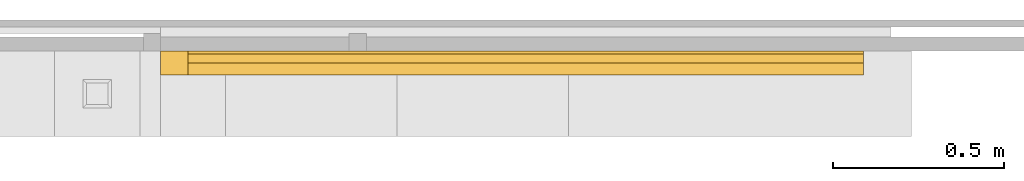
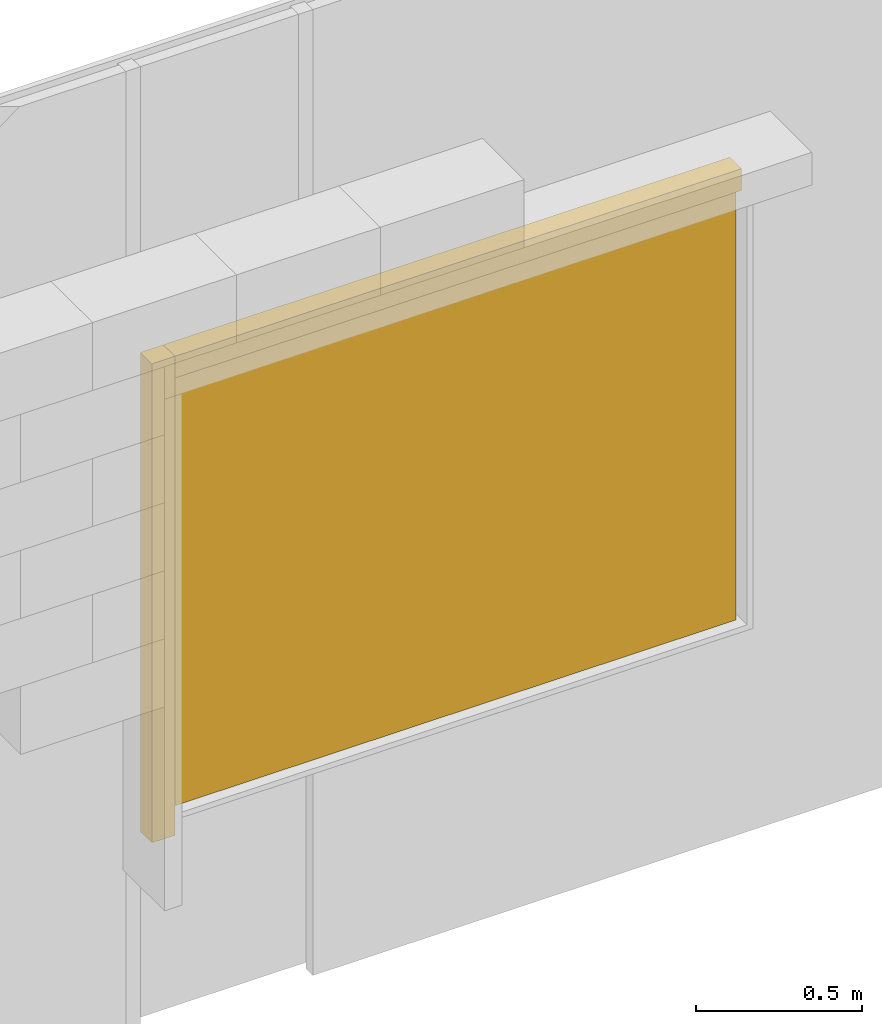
# One storey, part 2 of 2: 3 windows.
"""IFC4 building model written with IfcOpenShell, lengths in centimetres."""

from ifc_helpers import new_model, entity, si_unit, converted_unit, direction, frame, origin, place, context, subcontext, project, spatial, indexed_curve, outline, extrude, source, transform, mapped, material, type_object, type_shapes, element, save


model = new_model("IFC4")

# Units and contexts
model_context = context("Model", 3, precision=0.001, world=origin(), true_north=direction((0.0, 1.0)))
body_context = subcontext(model_context, "Body", "Model", "MODEL_VIEW")
ifc_project = project(units=[si_unit("LENGTHUNIT", "METRE", prefix="CENTI"), si_unit("AREAUNIT", "SQUARE_METRE"), si_unit("VOLUMEUNIT", "CUBIC_METRE"), converted_unit("PLANEANGLEUNIT", "DEGREE", entity("IfcPlaneAngleMeasure", 0.017453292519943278), si_unit("PLANEANGLEUNIT", "RADIAN"), dimensions=[0, 0, 0, 0, 0, 0, 0])], contexts=[model_context])

# Site, building, storey
site_placement = place(None, origin())
site = spatial("IfcSite", under=ifc_project, at=site_placement, Name="Default", CompositionType="ELEMENT")
building_placement = place(site_placement, origin())
building = spatial("IfcBuilding", under=site, at=building_placement, CompositionType="ELEMENT")
storey_placement = place(building_placement, frame((0.0, 0.0, -23.700000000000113)))
storey = spatial("IfcBuildingStorey", under=building, at=storey_placement, Name="L00__ABOVE Slab", CompositionType="ELEMENT", Elevation=-23.700000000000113)

# Windows
ifc_material_1 = material(Name="_WINDOW__Glazing", Category="Unassigned")
window_type_1 = type_object("IfcWindowType", Name="Windows : wdw_s__PANEL__Fixed__wp : Glazed", PartitioningType="NOTDEFINED", PredefinedType="WINDOW", material=ifc_material_1)
shared_shape_1 = source(origin(), body_context, "Body", "SweptSolid", [
    extrude(outline(indexed_curve([(-98.5, -1.3000000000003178), (98.5, -1.299999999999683), (98.5, 1.3000000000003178), (-98.5, 1.299999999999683), (-98.5, -1.3000000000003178)], self_intersect=False)), frame((98.5, 2.200000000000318, 0.0)), (0.0, 0.0, 1.0), 160.00000000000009),
])
type_shapes(window_type_1, [shared_shape_1])
window_1_placement = place(storey_placement, frame((3449.0256942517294, 2588.6164159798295, 70.0), z_axis=(0.0, 0.0, 1.0), x_axis=(-1.0, 0.0, 0.0)))
element("IfcWindow", 1, at=window_1_placement, inside=storey, type_object=window_type_1, material=ifc_material_1, Name="Windows : wdw_s__PANEL__Fixed__wp : Glazed", OverallHeight=7.0000000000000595, OverallWidth=197.0, PartitioningType="NOTDEFINED", PredefinedType="WINDOW", context=body_context, shape_type="MappedRepresentation", body=[
    mapped(shared_shape_1, transform((0.0, 0.0, 0.0), scale=1.0)),
])
ifc_material_2 = material(Name="_WINDOW__Profile__Wood", Category="Miscellaneous")
window_type_2 = type_object("IfcWindowType", Name="Windows : wdw_s__PROFILE__Frame__wp : Wood", PartitioningType="NOTDEFINED", PredefinedType="WINDOW", material=ifc_material_2)
shared_shape_2 = source(origin(), body_context, "Body", "SweptSolid", [
    extrude(outline(indexed_curve([(-4.000000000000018, -3.4999999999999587), (4.000000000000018, -3.4999999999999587), (4.000000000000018, 3.4999999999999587), (-4.000000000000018, 3.4999999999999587), (-4.000000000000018, -3.4999999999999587)], self_intersect=False)), frame((4.0, -3.4999999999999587, 0.0)), (0.0, 0.0, 1.0), 176.0),
])
type_shapes(window_type_2, [shared_shape_2])
window_2_placement = place(storey_placement, frame((3244.025694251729, 2588.6164159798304, 62.0)))
element("IfcWindow", 2, at=window_2_placement, inside=storey, type_object=window_type_2, material=ifc_material_2, Name="Windows : wdw_s__PROFILE__Frame__wp : Wood", OverallHeight=28.355733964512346, OverallWidth=8.000000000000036, PartitioningType="NOTDEFINED", PredefinedType="WINDOW", context=body_context, shape_type="MappedRepresentation", body=[
    mapped(shared_shape_2, transform((0.0, 0.0, 0.0), scale=1.0)),
])
window_type_3 = type_object("IfcWindowType", Name="Windows : wdw_s__PROFILE__Frame__wp : Wood", PartitioningType="NOTDEFINED", PredefinedType="WINDOW", material=ifc_material_2)
shared_shape_3 = source(origin(), body_context, "Body", "SweptSolid", [
    extrude(outline(indexed_curve([(-4.000000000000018, -3.4999999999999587), (4.000000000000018, -3.4999999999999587), (4.000000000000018, 3.4999999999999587), (-4.000000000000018, 3.4999999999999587), (-4.000000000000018, -3.4999999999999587)], self_intersect=False)), frame((4.0, -3.4999999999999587, 0.0)), (0.0, 0.0, 1.0), 197.0),
])
type_shapes(window_type_3, [shared_shape_3])
window_3_placement = place(storey_placement, frame((3252.0256942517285, 2588.6164159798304, 238.0), z_axis=(1.0, 0.0, 0.0), x_axis=(0.0, 0.0, -1.0)))
element("IfcWindow", 3, at=window_3_placement, inside=storey, type_object=window_type_3, material=ifc_material_2, Name="Windows : wdw_s__PROFILE__Frame__wp : Wood", OverallHeight=28.355733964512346, OverallWidth=8.000000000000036, PartitioningType="NOTDEFINED", PredefinedType="WINDOW", context=body_context, shape_type="MappedRepresentation", body=[
    mapped(shared_shape_3, transform((0.0, 0.0, 0.0), scale=1.0)),
])

save(model, "model.ifc")
